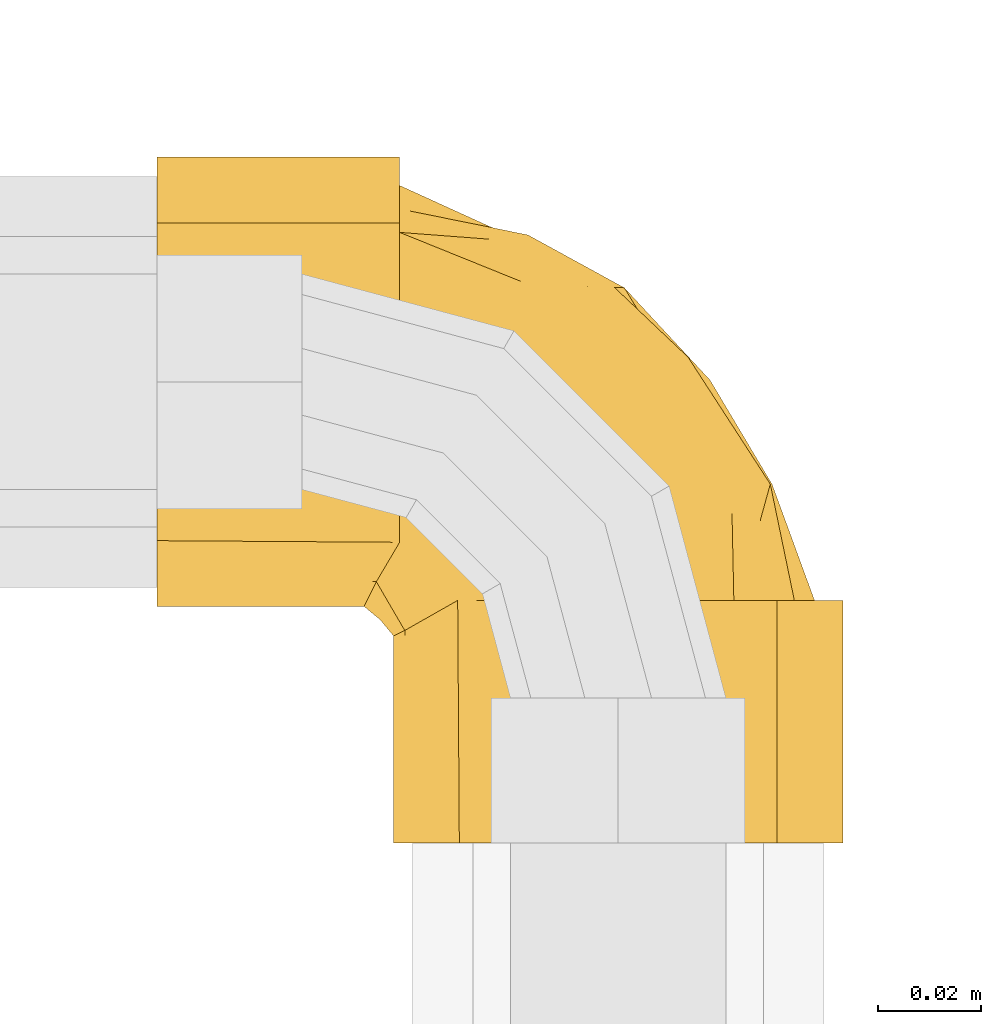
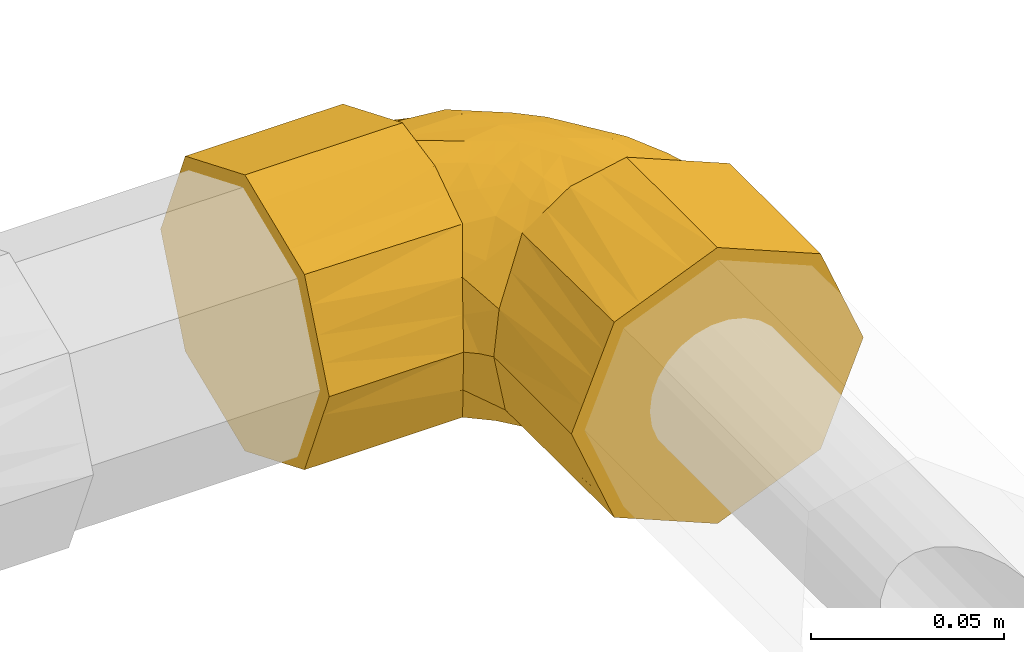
# One storey, part 279 of 652: 1 covering.
"""IFC2X3 building model written with IfcOpenShell, lengths in millimetres."""

from ifc_helpers import new_model, entity, si_unit, converted_unit, direction, frame, origin, place, context, subcontext, project, spatial, faceted_brep, material, type_object, element, save


model = new_model("IFC2X3")

# Units and contexts
model_context = context("Model", 3, precision=0.01, world=frame((0.0, 0.0, 308426.39999999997)), true_north=direction((6.123233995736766e-17, 1.0)))
plan_context = context("Plan", 3, precision=0.01, world=frame((0.0, 0.0, 308426.39999999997)), true_north=direction((6.123233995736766e-17, 1.0)))
body_context = subcontext(model_context, "Body", "Model", "MODEL_VIEW")
ifc_project = project(units=[si_unit("LENGTHUNIT", "METRE", prefix="MILLI"), si_unit("AREAUNIT", "SQUARE_METRE"), si_unit("VOLUMEUNIT", "CUBIC_METRE"), converted_unit("PLANEANGLEUNIT", "DEGREE", entity("IfcPlaneAngleMeasure", 0.017453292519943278), si_unit("PLANEANGLEUNIT", "RADIAN"), dimensions=[0, 0, 0, 0, 0, 0, 0])], contexts=[model_context, plan_context])

# Site, building, storey
site_placement = place(None, origin())
site = spatial("IfcSite", under=ifc_project, at=site_placement, Name="Default", CompositionType="ELEMENT")
building_placement = place(site_placement, origin())
building = spatial("IfcBuilding", under=site, at=building_placement, CompositionType="ELEMENT")
storey_placement = place(building_placement, frame((0.0, 0.0, 1730.6999999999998)))
storey = spatial("IfcBuildingStorey", under=building, at=storey_placement, Name="EG_Produktion_FFB", CompositionType="ELEMENT", Elevation=1730.6999999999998)

# Covering
ifc_material = material(Name="Dämmung - Armaflex-Schlauch")
covering_type = type_object("IfcCoveringType", Name="Rohrdämmung außen:Armaflex-Schlauch", PredefinedType="INSULATION")
covering_placement = place(storey_placement, frame((78890.2800000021, 78859.14066098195, 3645.3152722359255)))
element("IfcCovering", 1, at=covering_placement, inside=storey, type_object=covering_type, material=ifc_material, Name="Rohrdämmung außen:Armaflex-Schlauch", ObjectType="Rohrdämmung außen:Armaflex-Schlauch", PredefinedType="INSULATION", context=body_context, shape_type="Brep", body=[
    faceted_brep([(89.72000000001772, 47.17999999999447, -89.03527223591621), (81.24510874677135, 47.17999999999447, -87.32560271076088), (72.77021749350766, 47.17999999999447, -85.61593318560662), (65.62819301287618, 47.17999999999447, -80.76173107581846), (58.48616853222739, 47.17999999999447, -75.90752896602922), (67.59976223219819, 47.180000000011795, -80.04887855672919), (76.71335593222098, 47.17999999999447, -84.19022814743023), (86.71350835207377, 47.17999999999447, -85.31527223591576), (94.40209709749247, 47.180000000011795, -81.77473258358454), (102.09068584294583, 47.180000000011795, -78.23419293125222), (110.44003397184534, 47.180000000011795, -74.38937834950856), (118.78938210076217, 47.17999999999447, -70.54456376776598), (123.35795944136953, 47.180000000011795, -57.92991800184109), (127.92653678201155, 47.17999999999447, -45.3152722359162), (124.00203477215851, 47.180000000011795, -37.43572750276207), (120.07753276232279, 47.180000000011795, -29.556182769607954), (116.15303075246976, 47.180000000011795, -21.67663803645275), (112.22852874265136, 47.17999999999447, -13.797093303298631), (102.97722188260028, 47.180000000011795, -10.72173109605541), (94.84536511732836, 47.180000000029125, -8.018501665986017), (86.71350835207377, 47.17999999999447, -5.315272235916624), (82.95558245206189, 47.180000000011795, -6.153990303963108), (79.19765655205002, 47.180000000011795, -6.9927083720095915), (73.18731131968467, 47.180000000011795, -8.334135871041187), (67.17696608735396, 47.17999999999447, -9.675563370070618), (58.48616853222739, 47.17999999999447, -14.723015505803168), (65.62819301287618, 47.17999999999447, -9.868813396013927), (72.77021749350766, 47.17999999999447, -5.014611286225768), (81.24510874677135, 47.17999999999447, -3.3049417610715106), (89.72000000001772, 47.17999999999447, -1.5952722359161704), (98.12450894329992, 47.17999999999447, -5.076533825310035), (105.17735423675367, 47.17999999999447, -7.9979179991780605), (112.90603135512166, 47.17999999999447, -11.199240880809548), (120.63470847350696, 47.17999999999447, -14.400563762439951), (123.83603135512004, 47.17999999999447, -22.12924088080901), (127.03735423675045, 47.17999999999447, -29.857917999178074), (129.9587389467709, 47.17999999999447, -36.910764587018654), (133.44000000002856, 47.17999999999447, -45.3152722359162), (129.95873845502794, 47.17999999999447, -53.71978107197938), (127.03735423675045, 47.17999999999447, -60.772626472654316), (123.83603135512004, 47.17999999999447, -68.50130359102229), (120.63470847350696, 47.17999999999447, -76.22998070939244), (112.90603135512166, 47.17999999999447, -79.43130359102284), (105.17735423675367, 47.17999999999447, -82.63262647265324), (98.12450754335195, 47.17999999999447, -85.55401122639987), (58.80529152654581, 0.0, -14.400563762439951), (55.603968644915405, 0.0, -22.12924088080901), (52.402645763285, 0.0, -29.857917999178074), (49.2013228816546, 0.0, -37.586595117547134), (46.0, 0.0, -45.3152722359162), (49.481260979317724, 0.0, -53.71977970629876), (52.402645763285, 0.0, -60.772626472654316), (55.603968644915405, 0.0, -68.50130359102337), (58.80529152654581, 0.0, -76.22998070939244), (66.53396864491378, 0.0, -79.43130359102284), (74.26264576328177, 0.0, -82.6326264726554), (81.99132288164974, 0.0, -85.8339493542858), (89.72000000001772, 0.0, -89.03527223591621), (97.4486771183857, 0.0, -85.83394935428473), (105.17735423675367, 0.0, -82.63262647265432), (112.90603135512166, 0.0, -79.43130359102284), (120.63470847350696, 0.0, -76.22998070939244), (123.83603135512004, 0.0, -68.50130359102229), (127.03735423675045, 0.0, -60.772626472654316), (130.23867711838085, 0.0, -53.04394935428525), (133.44000000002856, 0.0, -45.3152722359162), (130.23867711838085, 0.0, -37.586595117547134), (127.03735423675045, 0.0, -29.857917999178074), (123.83603135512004, 0.0, -22.12924088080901), (120.63470847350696, 0.0, -14.400563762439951), (113.58186350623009, 0.0, -11.479179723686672), (106.52901853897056, 0.0, -8.55779568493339), (98.12450926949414, 0.0, -5.076533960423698), (89.72000000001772, 0.0, -1.5952722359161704), (81.31549241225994, 0.0, -5.0765332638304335), (74.26264576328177, 0.0, -7.9979179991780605), (66.53396864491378, 0.0, -11.199240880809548), (46.0, 40.28038015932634, -45.3152722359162), (48.18629937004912, 41.33169831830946, -31.662795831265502), (53.336233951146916, 44.25584915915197, -23.192905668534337), (48.410751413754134, 41.46955853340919, -55.29456727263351), (50.8215028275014, 42.65873690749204, -65.27386230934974), (54.65383567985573, 44.91936845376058, -70.59069563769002), (47.180000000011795, 89.72000000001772, -89.03527223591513), (47.180000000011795, 98.1245082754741, -85.55401092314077), (47.180000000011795, 105.17735423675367, -82.63262647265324), (47.180000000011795, 112.90603135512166, -79.43130359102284), (47.180000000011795, 120.63470847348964, -76.22998070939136), (47.180000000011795, 123.83603135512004, -68.50130359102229), (47.180000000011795, 127.03735423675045, -60.77262647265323), (47.180000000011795, 129.95873900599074, -53.71977974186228), (47.180000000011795, 133.44000000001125, -45.31527223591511), (47.180000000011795, 129.95873853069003, -36.9107635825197), (47.180000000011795, 127.03735423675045, -29.85791799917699), (47.180000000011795, 123.83603135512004, -22.129240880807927), (47.180000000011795, 120.63470847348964, -14.400563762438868), (47.180000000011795, 112.90603135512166, -11.199240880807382), (47.17999999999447, 105.17735423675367, -7.997917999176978), (47.180000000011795, 98.12450799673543, -5.076533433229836), (47.180000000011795, 89.72000000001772, -1.5952722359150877), (47.180000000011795, 81.24510874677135, -3.3049417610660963), (47.180000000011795, 72.77021749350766, -5.014611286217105), (47.180000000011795, 65.62819301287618, -9.8688133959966), (47.180000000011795, 58.48616853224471, -14.723015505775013), (47.180000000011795, 67.59976223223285, -10.581665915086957), (47.180000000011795, 76.71335593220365, -6.440316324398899), (47.180000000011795, 86.71350835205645, -5.315272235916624), (47.180000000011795, 94.40127311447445, -8.857127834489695), (47.180000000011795, 102.08903787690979, -12.398983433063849), (47.180000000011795, 110.44396463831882, -16.248209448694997), (47.180000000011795, 118.79889139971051, -20.097435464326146), (47.180000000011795, 123.36271409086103, -32.70635385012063), (47.180000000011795, 127.92653678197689, -45.3152722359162), (47.180000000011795, 124.11404686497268, -52.966063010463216), (47.180000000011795, 120.30155694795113, -60.616853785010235), (47.180000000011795, 116.25866242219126, -68.73001363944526), (47.180000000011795, 112.21576789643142, -76.84317349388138), (47.180000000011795, 102.97856549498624, -79.91186200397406), (47.180000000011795, 94.84603692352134, -82.61356711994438), (47.180000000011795, 86.71350835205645, -85.31527223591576), (47.180000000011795, 82.95558201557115, -84.47655407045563), (47.180000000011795, 79.19765567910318, -83.63783590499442), (47.180000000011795, 73.1873108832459, -82.29640850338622), (47.180000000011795, 67.17696608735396, -80.95498110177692), (47.180000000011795, 58.48616853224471, -75.90752896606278), (47.180000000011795, 65.62819301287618, -80.76173107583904), (47.180000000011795, 72.77021749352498, -85.61593318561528), (47.180000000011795, 81.24510874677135, -87.32560271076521), (0.0, 120.63470847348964, -14.400563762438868), (0.0, 123.5560925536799, -21.45340882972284), (0.0, 126.47747663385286, -28.506253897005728), (0.0, 129.9587383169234, -36.91076306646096), (0.0, 133.44000000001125, -45.31527223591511), (0.0, 130.23867711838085, -53.04394935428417), (0.0, 127.03735423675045, -60.77262647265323), (0.0, 123.83603135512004, -68.50130359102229), (0.0, 120.63470847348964, -76.22998070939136), (0.0, 113.58186238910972, -79.15136521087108), (0.0, 106.5290163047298, -82.07274971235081), (0.0, 98.12450815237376, -85.55401097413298), (0.0, 89.72000000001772, -89.03527223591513), (0.0, 81.31549252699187, -85.55401125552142), (0.0, 74.26264576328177, -82.63262647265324), (0.0, 66.53396864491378, -79.43130359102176), (0.0, 58.805291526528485, -76.22998070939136), (0.0, 55.603968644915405, -68.50130359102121), (0.0, 52.402645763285, -60.77262647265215), (0.0, 49.2013228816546, -53.04394935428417), (0.0, 46.0, -45.31527223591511), (0.0, 49.48126098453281, -36.91076475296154), (0.0, 52.402645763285, -29.85791799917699), (0.0, 55.603968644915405, -22.129240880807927), (0.0, 58.805291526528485, -14.400563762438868), (0.0, 66.53396864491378, -11.199240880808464), (0.0, 74.26264576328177, -7.997917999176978), (0.0, 81.3154907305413, -5.076533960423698), (0.0, 89.72000000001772, -1.5952722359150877), (0.0, 97.4486771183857, -4.796595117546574), (0.0, 105.17735423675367, -7.997917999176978), (0.0, 112.90603135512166, -11.199240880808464), (41.46955853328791, 48.410751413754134, -35.33597719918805), (40.28038015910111, 46.0, -45.31527223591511), (42.65873690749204, 50.8215028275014, -25.356682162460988), (44.91936845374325, 54.653835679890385, -20.039848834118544), (41.33169831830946, 48.18629937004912, -58.967748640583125), (44.25584915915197, 53.336233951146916, -67.43763880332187), (102.49999649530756, 69.00287237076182, -12.768902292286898), (83.60958898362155, 79.27054159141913, -7.787208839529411), (95.30424408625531, 64.27994292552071, -8.104834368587), (71.60897612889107, 81.73250255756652, -6.007401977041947), (59.43767565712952, 79.20442983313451, -5.315272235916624), (61.22785128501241, 78.10776438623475, -5.315272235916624), (66.46160129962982, 74.90155785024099, -5.315272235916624), (71.69535131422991, 71.69535131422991, -5.315272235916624), (83.67430089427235, 67.73111580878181, -5.864571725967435), (117.40903969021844, 62.91092344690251, -24.586613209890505), (111.86429064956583, 64.29183882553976, -18.414775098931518), (70.8506366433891, 109.23539302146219, -18.927192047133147), (67.53335117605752, 102.70172056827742, -12.404066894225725), (83.80384600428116, 108.27293498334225, -27.825148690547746), (64.53321341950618, 117.48258301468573, -25.732183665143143), (90.43623469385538, 89.71022663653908, -14.910850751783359), (102.66695114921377, 79.3927764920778, -17.612323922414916), (94.87809969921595, 94.78970943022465, -22.310634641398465), (80.53930526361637, 90.62380762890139, -10.645810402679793), (118.67320029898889, 62.3907714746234, -45.3152722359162), (119.32128053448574, 69.80994806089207, -35.04382849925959), (89.05681868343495, 108.03177862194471, -35.87734257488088), (72.184362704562, 118.28560003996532, -35.341643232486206), (66.98253595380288, 93.40132818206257, -7.978346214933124), (109.32574663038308, 77.92832688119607, -23.676283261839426), (103.32706994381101, 94.4974718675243, -35.14394551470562), (103.30544999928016, 90.4868647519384, -28.006441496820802), (90.91319084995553, 108.02308589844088, -45.3152722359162), (65.2108364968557, 119.72050695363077, -45.3152722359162), (109.41986381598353, 77.60154294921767, -45.3152722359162), (100.16652733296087, 92.81231442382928, -45.3152722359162), (54.203925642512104, 82.41063636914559, -5.315272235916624), (74.90155815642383, 66.46160079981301, -5.315272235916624), (78.10776499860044, 61.22785028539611, -5.315272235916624), (82.41063667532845, 54.20392514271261, -5.315272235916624), (84.56207251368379, 50.69196257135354, -5.315272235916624), (56.25886182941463, 71.7294738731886, -6.5150263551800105), (62.03791845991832, 67.3601062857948, -6.5236047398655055), (70.10566319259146, 56.52012715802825, -6.8388078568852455), (68.23490048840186, 65.04087912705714, -5.95142486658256), (62.99433546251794, 59.90607442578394, -8.011933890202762), (54.79248262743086, 63.43136302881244, -9.284155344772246), (43.41108006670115, 43.41108006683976, -45.3152722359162), (48.835072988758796, 49.261107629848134, -21.350681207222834), (55.1444220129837, 55.14442212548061, -12.878665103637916), (64.13683945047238, 53.03286107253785, -9.50900152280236), (59.90607457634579, 62.99433518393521, -82.61861054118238), (63.431363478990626, 54.792482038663, -81.34638912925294), (55.144422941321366, 55.14442305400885, -77.75188031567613), (78.10776499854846, 61.227850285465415, -85.31527223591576), (79.20442983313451, 59.43767565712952, -85.31527223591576), (82.41063667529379, 54.203925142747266, -85.31527223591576), (49.261107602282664, 48.83507246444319, -69.27986274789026), (53.03286108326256, 64.13683850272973, -81.12154256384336), (56.52012643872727, 70.10566333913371, -83.79173653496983), (67.36010606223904, 62.03791892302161, -84.10693976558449), (65.04087848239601, 68.23490171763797, -84.67911968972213), (71.69535131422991, 71.69535131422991, -85.31527223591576), (71.7294735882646, 56.258862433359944, -84.11551813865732), (74.90155815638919, 66.46160079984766, -85.31527223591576), (50.69196282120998, 84.56207236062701, -85.31527223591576), (54.20392564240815, 82.4106363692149, -85.31527223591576), (61.22785128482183, 78.10776438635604, -85.31527223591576), (66.46160129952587, 74.90155785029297, -85.31527223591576), (64.51661720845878, 112.06272967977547, -71.91409724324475), (62.891723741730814, 117.62981658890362, -65.71218477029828), (77.88843229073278, 109.44097839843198, -66.83340013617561), (93.66203085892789, 102.73486486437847, -58.715493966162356), (94.88135093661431, 96.00640061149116, -67.0360392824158), (119.67254054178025, 69.7757408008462, -54.35919340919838), (72.87900692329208, 117.47983892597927, -56.77859017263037), (81.73107619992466, 71.60753660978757, -84.62352215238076), (93.40104666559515, 66.97986259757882, -82.65281657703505), (79.26910431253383, 83.60598780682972, -82.84467155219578), (90.61961422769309, 80.53671556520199, -79.98754021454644), (64.28083963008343, 95.30418854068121, -82.52556187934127), (67.73559194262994, 83.66921531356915, -84.76623113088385), (89.7061204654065, 90.43203242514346, -75.72471529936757), (69.00398843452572, 102.49262071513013, -77.86587628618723), (79.38016234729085, 102.74278789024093, -72.96044433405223), (108.77974526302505, 71.20903818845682, -71.96834918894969), (102.96803980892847, 66.84410548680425, -78.28376597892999), (108.54428370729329, 83.52574882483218, -62.67108318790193), (118.44866051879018, 64.64552317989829, -63.126039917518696), (107.59283931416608, 90.0539908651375, -53.6044576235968)], [[[0, 1, 2, 3, 4, 5, 6, 7, 8, 9, 10, 11, 12, 13, 14, 15, 16, 17, 18, 19, 20, 21, 22, 23, 24, 25, 26, 27, 28, 29, 30, 31, 32, 33, 34, 35, 36, 37, 38, 39, 40, 41, 42, 43, 44]], [[45, 46, 47, 48, 49, 50, 51, 52, 53, 54, 55, 56, 57, 58, 59, 60, 61, 62, 63, 64, 65, 66, 67, 68, 69, 70, 71, 72, 73, 74, 75, 76]], [[74, 27, 76, 75]], [[77, 48, 78]], [[78, 47, 79]], [[48, 77, 49]], [[25, 79, 46]], [[27, 74, 28]], [[45, 26, 25]], [[48, 47, 78]], [[73, 28, 74]], [[73, 29, 28]], [[76, 27, 26]], [[26, 45, 76]], [[25, 46, 45]], [[79, 47, 46]], [[30, 29, 73, 72, 71, 70, 69, 33, 32, 31]], [[33, 69, 68, 67, 66, 65, 37, 36, 35, 34]], [[0, 44, 43, 42, 41, 61, 60, 59, 58, 57]], [[63, 62, 61, 41, 40, 39, 38, 37, 65, 64]], [[3, 54, 53]], [[57, 56, 0]], [[80, 51, 50]], [[55, 2, 1]], [[55, 54, 2]], [[52, 81, 82, 4]], [[50, 77, 80]], [[2, 54, 3]], [[1, 56, 55]], [[53, 4, 3]], [[51, 80, 81]], [[0, 56, 1]], [[50, 49, 77]], [[52, 4, 53]], [[52, 51, 81]], [[83, 84, 85, 86, 87, 88, 89, 90, 91, 92, 93, 94, 95, 96, 97, 98, 99, 100, 101, 102, 103, 104, 105, 106, 107, 108, 109, 110, 111, 112, 113, 114, 115, 116, 117, 118, 119, 120, 121, 122, 123, 124, 125, 126, 127]], [[128, 129, 130, 131, 132, 133, 134, 135, 136, 137, 138, 139, 140, 141, 142, 143, 144, 145, 146, 147, 148, 149, 150, 151, 152, 153, 154, 155, 156, 157, 158, 159]], [[130, 129, 128, 95, 94, 93, 92, 91, 132, 131]], [[95, 128, 159, 158, 157, 156, 99, 98, 97, 96]], [[102, 153, 152]], [[160, 150, 149]], [[99, 156, 100]], [[154, 153, 101, 155]], [[155, 101, 100]], [[149, 161, 160]], [[101, 153, 102]], [[151, 162, 163, 103]], [[152, 103, 102]], [[150, 160, 162]], [[156, 155, 100]], [[149, 148, 161]], [[151, 103, 152]], [[151, 150, 162]], [[125, 144, 143]], [[140, 83, 127]], [[161, 147, 164]], [[164, 146, 165]], [[147, 161, 148]], [[144, 125, 124]], [[126, 141, 127]], [[143, 142, 141, 126]], [[124, 145, 144]], [[140, 127, 141]], [[147, 146, 164]], [[143, 126, 125]], [[124, 165, 145]], [[165, 146, 145]], [[84, 83, 140, 139, 138, 137, 136, 87, 86, 85]], [[87, 136, 135, 134, 133, 132, 91, 90, 89, 88]], [[166, 167, 168]], [[169, 170, 171, 172, 173]], [[19, 168, 174]], [[17, 166, 18]], [[175, 176, 16]], [[177, 109, 178]], [[179, 180, 177]], [[181, 182, 183]], [[166, 181, 184]], [[14, 185, 186]], [[187, 188, 179]], [[184, 189, 167]], [[182, 181, 166]], [[176, 175, 190]], [[186, 191, 192]], [[166, 184, 167]], [[169, 174, 167]], [[188, 193, 194]], [[110, 109, 177]], [[190, 175, 186]], [[175, 16, 15]], [[186, 175, 15]], [[176, 190, 182]], [[186, 15, 14]], [[186, 195, 191]], [[196, 193, 187]], [[179, 183, 192]], [[184, 178, 189]], [[191, 195, 196]], [[178, 109, 108]], [[183, 177, 181]], [[178, 108, 189]], [[181, 177, 178]], [[189, 108, 107]], [[107, 106, 197, 170]], [[170, 169, 107]], [[169, 173, 174]], [[167, 189, 169]], [[107, 169, 189]], [[174, 173, 198, 199, 200, 201, 20]], [[174, 20, 19]], [[168, 19, 18]], [[166, 168, 18]], [[174, 168, 167]], [[111, 180, 188]], [[110, 177, 180]], [[194, 112, 111]], [[178, 184, 181]], [[188, 180, 179]], [[111, 110, 180]], [[179, 191, 187]], [[111, 188, 194]], [[187, 191, 196]], [[193, 188, 187]], [[192, 183, 190]], [[177, 183, 179]], [[166, 17, 176]], [[183, 182, 190]], [[166, 176, 182]], [[17, 16, 176]], [[185, 14, 13]], [[185, 195, 186]], [[186, 192, 190]], [[179, 192, 191]], [[172, 202, 203]], [[204, 205, 206]], [[23, 22, 21, 20, 201, 200, 199]], [[202, 104, 207]], [[208, 77, 78]], [[203, 173, 172]], [[203, 202, 207]], [[105, 104, 202]], [[163, 162, 209]], [[203, 205, 173]], [[197, 106, 105, 171, 170]], [[207, 206, 203]], [[210, 207, 103]], [[104, 103, 207]], [[160, 161, 208]], [[210, 163, 209]], [[206, 207, 210]], [[210, 25, 211]], [[204, 211, 24]], [[209, 25, 210]], [[78, 79, 25, 209]], [[105, 202, 171]], [[210, 103, 163]], [[78, 209, 162]], [[205, 203, 206]], [[172, 171, 202]], [[206, 211, 204]], [[204, 198, 205]], [[204, 24, 23]], [[210, 211, 206]], [[199, 204, 23]], [[198, 204, 199]], [[198, 173, 205]], [[25, 24, 211]], [[78, 160, 208]], [[78, 162, 160]], [[212, 213, 214]], [[6, 215, 216, 217, 7]], [[82, 218, 214]], [[219, 123, 220]], [[214, 213, 4]], [[5, 4, 213]], [[221, 222, 223]], [[208, 80, 77]], [[218, 124, 214]], [[161, 164, 208]], [[214, 124, 219]], [[6, 5, 224]], [[82, 81, 218]], [[224, 5, 213]], [[225, 224, 221]], [[220, 222, 212]], [[122, 121, 120, 119, 226, 227, 228]], [[164, 165, 124, 218]], [[221, 223, 225]], [[213, 212, 221]], [[221, 224, 213]], [[6, 224, 215]], [[214, 4, 82]], [[164, 218, 81]], [[222, 221, 212]], [[225, 215, 224]], [[212, 219, 220]], [[220, 229, 222]], [[220, 123, 122]], [[214, 219, 212]], [[228, 220, 122]], [[229, 220, 228]], [[229, 223, 222]], [[124, 123, 219]], [[164, 80, 208]], [[164, 81, 80]], [[230, 115, 231]], [[232, 233, 234]], [[12, 235, 13]], [[113, 194, 236]], [[237, 216, 215, 225, 223]], [[236, 232, 231]], [[238, 239, 240]], [[230, 231, 232]], [[118, 241, 242]], [[243, 244, 245]], [[246, 10, 247]], [[116, 244, 117]], [[244, 243, 240]], [[244, 239, 241]], [[248, 249, 246]], [[247, 238, 240]], [[237, 242, 239]], [[232, 236, 233]], [[250, 193, 196, 195]], [[113, 236, 114]], [[233, 248, 234]], [[113, 112, 194]], [[193, 236, 194]], [[236, 193, 233]], [[233, 250, 248]], [[231, 115, 114]], [[248, 250, 235]], [[248, 235, 249]], [[235, 250, 195]], [[235, 195, 185, 13]], [[235, 12, 249]], [[12, 11, 249]], [[246, 249, 11]], [[10, 9, 247]], [[234, 246, 243]], [[246, 234, 248]], [[245, 234, 243]], [[246, 11, 10]], [[247, 9, 238]], [[243, 246, 247]], [[238, 9, 8]], [[8, 7, 217, 216]], [[216, 237, 8]], [[237, 223, 242]], [[239, 238, 237]], [[8, 237, 238]], [[242, 223, 229, 228, 227, 226, 119]], [[242, 119, 118]], [[241, 118, 117]], [[244, 241, 117]], [[242, 241, 239]], [[244, 240, 239]], [[247, 240, 243]], [[193, 250, 233]], [[236, 231, 114]], [[230, 232, 245]], [[244, 116, 230]], [[234, 245, 232]], [[244, 230, 245]], [[116, 115, 230]]]),
])

save(model, "model.ifc")
